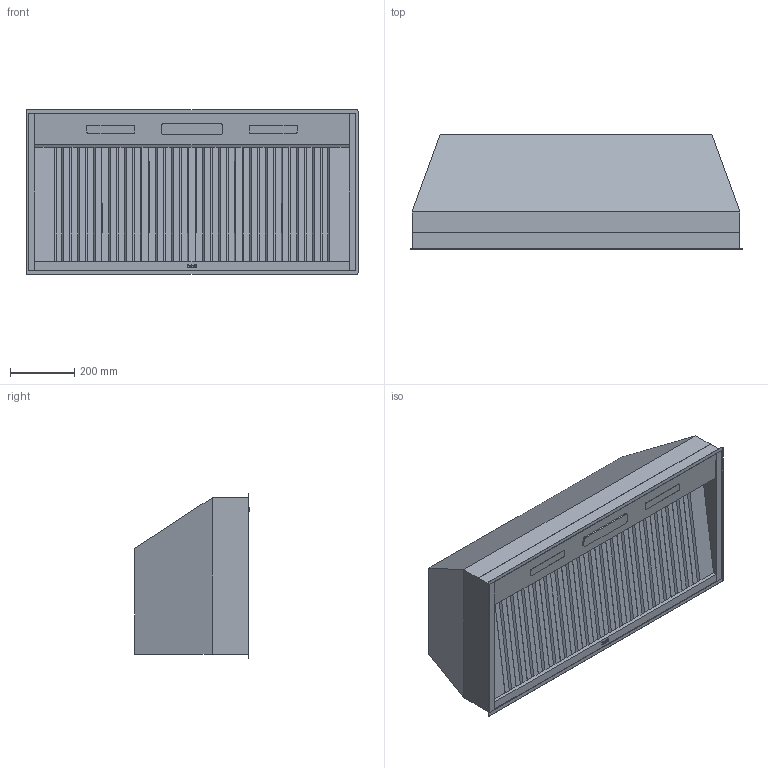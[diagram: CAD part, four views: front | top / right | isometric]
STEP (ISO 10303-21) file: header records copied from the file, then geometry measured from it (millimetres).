
FILE_DESCRIPTION((''),'2;1');
FILE_NAME('HBN542912SS_WEB_CAD_MODEL','2025-04-29T08:26:48',('BoutinM'),(''),'CREO PARAMETRIC BY PTC INC, 2023424','CREO PARAMETRIC BY PTC INC, 2023424','');
FILE_SCHEMA(('CONFIG_CONTROL_DESIGN','SHAPE_APPEARANCE_LAYERS_GROUPS'));
Length unit declared in the file: inch
Products named in the file (1): HBN542912SS_WEB_CAD_MODEL
Bounding box: 1037.01 x 357.48 x 514.35 mm (x, y, z)
Volume: 135332338.4 mm3; surface area: 2062729.9 mm2
Topology: 1 solids, 1 shells, 234 faces, 598 edges, 374 vertices
Faces by surface type: plane 205, cylinder 29
Entity records: 9381 total; most frequent: CARTESIAN_POINT 1206, ORIENTED_EDGE 1196, DIRECTION 1124, PRESENTATION_STYLE_ASSIGNMENT 628, STYLED_ITEM 599, CURVE_STYLE 598, EDGE_CURVE 598, VECTOR 540
